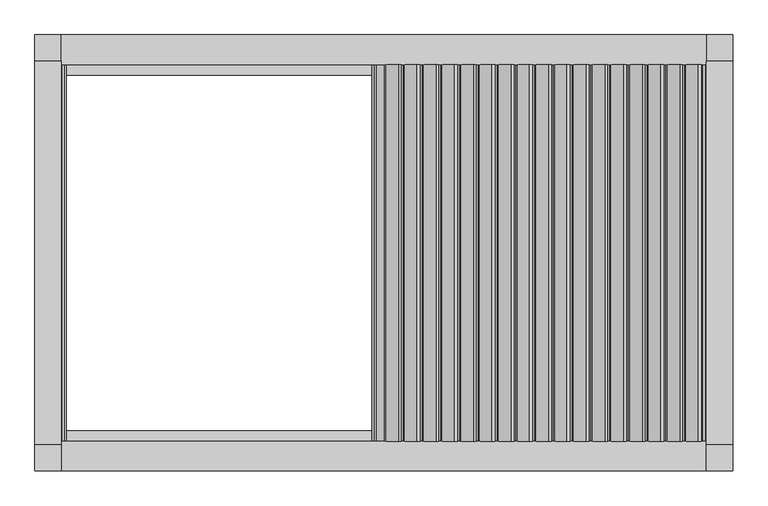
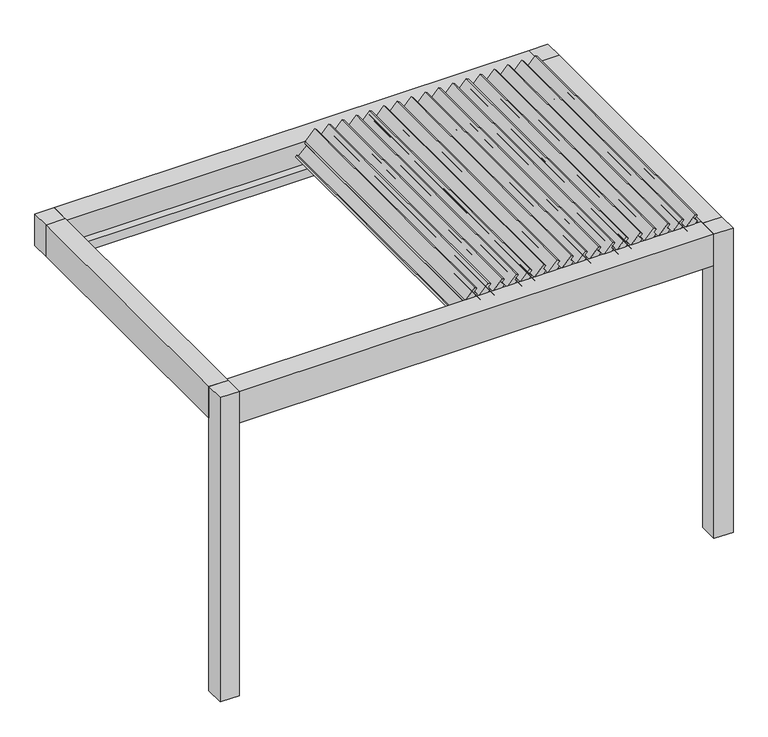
"""IFC4 building model written with IfcOpenShell, lengths in millimetres: proxy geometry, Renson_Camargue_Skye_Facade-Mounted_Patio covers : Renson_Camargue_Skye_Facade-Mounted_Patio covers."""

import ifcopenshell
import ifcopenshell.guid

model = None  # the IFC model being written
_history = None  # IfcOwnerHistory: only IFC2X3 demands one
_inside = {}  # id of a spatial element -> (the spatial element, [elements in it])
_under = {}  # id of a project, library or spatial element -> (it, [spatial elements below it])
_declared = {}  # id of a project -> (the project, [libraries it declares])
_typed = {}  # id of a type object -> (the type object, [elements of that type])
_made_of = {}  # id of a material, layer set ... -> (it, [elements and type objects made of it])


def new_model(schema):
    """Start an empty IFC model of exactly this schema.

    Asked for "IFC4X3", IfcOpenShell would pick the latest addendum, in which some entities
    have other attributes; the version numbers below select the first issue.
    IFC2X3 requires an IfcOwnerHistory on every rooted entity: one is made here for all.
    """
    global model, _history
    if schema == "IFC4X3":
        model = ifcopenshell.file(schema_version=(4, 3, 0, 0))
    else:
        model = ifcopenshell.file(schema=schema)
    _inside.clear()
    _under.clear()
    _declared.clear()
    _typed.clear()
    _made_of.clear()
    _history = None
    if model.schema == "IFC2X3":
        org = make("IfcOrganization", Name="unknown")
        user = make(
            "IfcPersonAndOrganization",
            ThePerson=make("IfcPerson", FamilyName="unknown"),
            TheOrganization=org,
        )
        app = make(
            "IfcApplication",
            ApplicationDeveloper=org,
            Version="unknown",
            ApplicationFullName="unknown",
            ApplicationIdentifier="unknown",
        )
        _history = make(
            "IfcOwnerHistory",
            OwningUser=user,
            OwningApplication=app,
            ChangeAction="ADDED",
            CreationDate=0,
        )
    return model


def make(cls, **values):
    """One entity of the class cls with the attributes given. An attribute that is None is left unset."""
    return model.create_entity(
        cls, **{name: value for name, value in values.items() if value is not None}
    )


def rooted(cls, **values):
    """An entity with a GlobalId (a new one), such as an element, a storey or a relation."""
    return make(cls, GlobalId=ifcopenshell.guid.new(), OwnerHistory=_history, **values)


def si_unit(unit_type, name, prefix=None):
    """IfcSIUnit, for example si_unit("LENGTHUNIT", "METRE", prefix="MILLI")."""
    return make("IfcSIUnit", UnitType=unit_type, Prefix=prefix, Name=name)


def assignment(units):
    """IfcUnitAssignment: the units of a project."""
    return None if units is None else make("IfcUnitAssignment", Units=units)


def point(xyz):
    """IfcCartesianPoint."""
    return None if xyz is None else make("IfcCartesianPoint", Coordinates=xyz)


def direction(xyz):
    """IfcDirection."""
    return None if xyz is None else make("IfcDirection", DirectionRatios=xyz)


def frame(location, z_axis=None, x_axis=None):
    """IfcAxis2Placement3D, a coordinate frame: its origin and axes. An axis left out is left unset."""
    return make(
        "IfcAxis2Placement3D",
        Location=point(location),
        Axis=direction(z_axis),
        RefDirection=direction(x_axis),
    )


def frame_2d(location, x_axis=None):
    """IfcAxis2Placement2D, a coordinate frame in the plane: its origin and x axis."""
    return make(
        "IfcAxis2Placement2D", Location=point(location), RefDirection=direction(x_axis)
    )


def origin():
    """The frame at (0, 0, 0) with its axes left unset."""
    return frame((0.0, 0.0, 0.0))


def origin_with_axes():
    """The frame at (0, 0, 0) with the z axis (0, 0, 1) and the x axis (1, 0, 0) written out."""
    return frame((0.0, 0.0, 0.0), z_axis=(0.0, 0.0, 1.0), x_axis=(1.0, 0.0, 0.0))


def place(relative_to, where):
    """IfcLocalPlacement: puts the frame where relative to a parent placement (None: the world)."""
    return make(
        "IfcLocalPlacement", PlacementRelTo=relative_to, RelativePlacement=where
    )


def context(
    kind, dimensions, precision=None, world=None, true_north=None, identifier=None
):
    """IfcGeometricRepresentationContext, for example the 3D "Model" context."""
    return make(
        "IfcGeometricRepresentationContext",
        ContextIdentifier=identifier,
        ContextType=kind,
        CoordinateSpaceDimension=dimensions,
        Precision=precision,
        WorldCoordinateSystem=world,
        TrueNorth=true_north,
    )


def project(units=None, contexts=None):
    """IfcProject with its units and contexts."""
    return rooted(
        "IfcProject",
        Name="project",
        RepresentationContexts=contexts,
        UnitsInContext=assignment(units),
    )


def spatial(cls, under=None, at=None, **own):
    """A site, building, storey or space (cls), placed at a placement, below another one or the project."""
    s = rooted(cls, ObjectPlacement=at, **own)
    if under is not None:
        _under.setdefault(under.id(), (under, []))[1].append(s)
    return s


def polyline(points):
    """IfcPolyline through the points."""
    return make("IfcPolyline", Points=[point(p) for p in points])


def circle_curve(where, radius):
    """IfcCircle in the frame where."""
    return make("IfcCircle", Position=where, Radius=radius)


def trimmed(basis, trim1, trim2, sense, master):
    """IfcTrimmedCurve: the piece of a basis curve between two trims."""
    return make(
        "IfcTrimmedCurve",
        BasisCurve=basis,
        Trim1=trim1,
        Trim2=trim2,
        SenseAgreement=sense,
        MasterRepresentation=master,
    )


def segment(curve, same_sense, transition):
    """IfcCompositeCurveSegment."""
    return make(
        "IfcCompositeCurveSegment",
        Transition=transition,
        SameSense=same_sense,
        ParentCurve=curve,
    )


def composite_curve(segments, self_intersect=None):
    """IfcCompositeCurve: segments joined end to end."""
    return make("IfcCompositeCurve", Segments=segments, SelfIntersect=self_intersect)


def outline(outer, holes=None, kind="AREA"):
    """IfcArbitraryClosedProfileDef: a profile drawn as a closed curve; with holes, ...WithVoids."""
    if holes is None:
        return make("IfcArbitraryClosedProfileDef", ProfileType=kind, OuterCurve=outer)
    return make(
        "IfcArbitraryProfileDefWithVoids",
        ProfileType=kind,
        OuterCurve=outer,
        InnerCurves=holes,
    )


def extrude(swept, where, along, depth):
    """IfcExtrudedAreaSolid: the profile swept, set in the frame where, extruded along a direction by depth."""
    return make(
        "IfcExtrudedAreaSolid",
        SweptArea=swept,
        Position=where,
        ExtrudedDirection=direction(along),
        Depth=depth,
    )


def shape(context_of_items, identifier, shape_type, items):
    """IfcShapeRepresentation: the items that make up one representation, for example the "Body"."""
    return make(
        "IfcShapeRepresentation",
        ContextOfItems=context_of_items,
        RepresentationIdentifier=identifier,
        RepresentationType=shape_type,
        Items=items,
    )


def source(mapping_origin, context_of_items, identifier, shape_type, items):
    """IfcRepresentationMap: a shape defined once, which mapped items show again and again."""
    return make(
        "IfcRepresentationMap",
        MappingOrigin=mapping_origin,
        MappedRepresentation=shape(context_of_items, identifier, shape_type, items),
    )


def transform(
    local_origin,
    x_axis=None,
    y_axis=None,
    z_axis=None,
    scale=None,
    scale2=None,
    scale3=None,
    uniform=True,
):
    """IfcCartesianTransformationOperator3D, or its non-uniform kind. x_axis, y_axis, z_axis: its Axis1, 2, 3."""
    if uniform:
        return make(
            "IfcCartesianTransformationOperator3D",
            Axis1=direction(x_axis),
            Axis2=direction(y_axis),
            LocalOrigin=point(local_origin),
            Scale=scale,
            Axis3=direction(z_axis),
        )
    return make(
        "IfcCartesianTransformationOperator3DnonUniform",
        Axis1=direction(x_axis),
        Axis2=direction(y_axis),
        LocalOrigin=point(local_origin),
        Scale=scale,
        Axis3=direction(z_axis),
        Scale2=scale2,
        Scale3=scale3,
    )


def mapped(mapping_source, mapping_target):
    """IfcMappedItem: shows the shape of a source again, moved by a transform."""
    return make(
        "IfcMappedItem", MappingSource=mapping_source, MappingTarget=mapping_target
    )


def made_of(thing, what):
    """Note that an element or type object is made of a material, layer set ...; save() writes the relation."""
    if what is not None:
        _made_of.setdefault(what.id(), (what, []))[1].append(thing)
    return thing


def element(
    cls,
    number,
    at=None,
    inside=None,
    cuts=None,
    type_object=None,
    material=None,
    context=None,
    identifier="Body",
    shape_type=None,
    held_by="IfcProductDefinitionShape",
    body=None,
    shapes=None,
    **own,
):
    """One element of the class cls, such as IfcWall. Its Tag is "e" and its number.

    at: its placement. inside: the storey or other place that contains it. cuts: it is an
    opening in that element (IfcRelVoidsElement). A single representation is given by context,
    identifier, shape_type and body (its items); several are given by shapes. held_by: the class
    of the entity that holds the representations. save() writes the other relations.
    """
    e = rooted(cls, Tag="e%d" % number, ObjectPlacement=at, **own)
    if body is not None:
        shapes = [shape(context, identifier, shape_type, body)]
    if shapes is not None:
        e.Representation = make(held_by, Representations=shapes)
    if inside is not None:
        _inside.setdefault(inside.id(), (inside, []))[1].append(e)
    if cuts is not None:
        rooted(
            "IfcRelVoidsElement", RelatingBuildingElement=cuts, RelatedOpeningElement=e
        )
    if type_object is not None:
        _typed.setdefault(type_object.id(), (type_object, []))[1].append(e)
    return made_of(e, material)


def aggregate(whole, parts):
    """IfcRelAggregates: a whole, such as a stair, and the parts it consists of."""
    return rooted("IfcRelAggregates", RelatingObject=whole, RelatedObjects=parts)


def save(model, path):
    """Write the relations noted so far, then the file.

    IfcRelAggregates (storeys below a building ...), IfcRelContainedInSpatialStructure (elements
    in a storey), IfcRelDefinesByType, IfcRelAssociatesMaterial and IfcRelDeclares: one each for
    every whole, place, type object, material and project.
    """
    for whole, parts in _under.values():
        aggregate(whole, parts)
    for where, things in _inside.values():
        rooted(
            "IfcRelContainedInSpatialStructure",
            RelatedElements=things,
            RelatingStructure=where,
        )
    for kind, things in _typed.values():
        rooted("IfcRelDefinesByType", RelatedObjects=things, RelatingType=kind)
    for what, things in _made_of.values():
        rooted("IfcRelAssociatesMaterial", RelatedObjects=things, RelatingMaterial=what)
    for by, libraries in _declared.values():
        rooted("IfcRelDeclares", RelatingContext=by, RelatedDefinitions=libraries)
    model.write(path)


def generic_models_02ebf654(model_context):
    return source(origin(), model_context, "Body", "SweptSolid", [
        extrude(outline(composite_curve([segment(polyline([(2532.0835122, 1710.9276745), (2553.3547618, 1693.0789769), (2574.7237457, 1712.4891952), (2586.077577, 1696.2742437), (2504.561844, 1622.2305651)]), True, "CONTINUOUS"), segment(trimmed(circle_curve(frame_2d((2494.4763419, 1633.333837)), 15.0), [point((2504.561844, 1622.2305651))], [point((2485.8726953, 1621.0465563))], False, "CARTESIAN"), True, "CONTINUOUS"), segment(polyline([(2485.8726953, 1621.0465563), (2469.8777579, 1632.2463321), (2407.8391957, 1570.2077699), (2417.7863257, 1556.0017959), (2406.4649975, 1545.7182254), (2384.9376513, 1563.7818136), (2532.0835122, 1710.9276745)]), True, "CONTINUOUS")], self_intersect=False)), frame((0.0, -1080.0, 0.0), z_axis=(0.0, 1.0, 0.0), x_axis=(0.0, 0.0, 1.0)), (0.0, 0.0, 1.0), 2160.0),
        extrude(outline(composite_curve([segment(polyline([(2532.0835122, 1603.4168697), (2553.3547618, 1585.5681721), (2574.7237457, 1604.9783904), (2586.077577, 1588.7634389), (2504.561844, 1514.7197603)]), True, "CONTINUOUS"), segment(trimmed(circle_curve(frame_2d((2494.4763419, 1525.8230322)), 15.0), [point((2504.561844, 1514.7197603))], [point((2485.8726953, 1513.5357516))], False, "CARTESIAN"), True, "CONTINUOUS"), segment(polyline([(2485.8726953, 1513.5357516), (2469.8777579, 1524.7355273), (2407.8391957, 1462.6969652), (2417.7863257, 1448.4909912), (2406.4649975, 1438.2074206), (2384.9376513, 1456.2710088), (2532.0835122, 1603.4168697)]), True, "CONTINUOUS")], self_intersect=False)), frame((0.0, -1080.0, 0.0), z_axis=(0.0, 1.0, 0.0), x_axis=(0.0, 0.0, 1.0)), (0.0, 0.0, 1.0), 2160.0),
        extrude(outline(composite_curve([segment(polyline([(2532.0835122, 1495.906065), (2553.3547618, 1478.0573673), (2574.7237457, 1497.4675857), (2586.077577, 1481.2526342), (2504.561844, 1407.2089555)]), True, "CONTINUOUS"), segment(trimmed(circle_curve(frame_2d((2494.4763419, 1418.3122274)), 15.0), [point((2504.561844, 1407.2089555))], [point((2485.8726953, 1406.0249468))], False, "CARTESIAN"), True, "CONTINUOUS"), segment(polyline([(2485.8726953, 1406.0249468), (2469.8777579, 1417.2247226), (2407.8391957, 1355.1861604), (2417.7863257, 1340.9801864), (2406.4649975, 1330.6966158), (2384.9376513, 1348.760204), (2532.0835122, 1495.906065)]), True, "CONTINUOUS")], self_intersect=False)), frame((0.0, -1080.0, 0.0), z_axis=(0.0, 1.0, 0.0), x_axis=(0.0, 0.0, 1.0)), (0.0, 0.0, 1.0), 2160.0),
        extrude(outline(composite_curve([segment(polyline([(2532.0835122, 1388.3952602), (2553.3547618, 1370.5465625), (2574.7237457, 1389.9567809), (2586.077577, 1373.7418294), (2504.561844, 1299.6981507)]), True, "CONTINUOUS"), segment(trimmed(circle_curve(frame_2d((2494.4763419, 1310.8014227)), 15.0), [point((2504.561844, 1299.6981507))], [point((2485.8726953, 1298.514142))], False, "CARTESIAN"), True, "CONTINUOUS"), segment(polyline([(2485.8726953, 1298.514142), (2469.8777579, 1309.7139178), (2407.8391957, 1247.6753556), (2417.7863257, 1233.4693816), (2406.4649975, 1223.185811), (2384.9376513, 1241.2493993), (2532.0835122, 1388.3952602)]), True, "CONTINUOUS")], self_intersect=False)), frame((0.0, -1080.0, 0.0), z_axis=(0.0, 1.0, 0.0), x_axis=(0.0, 0.0, 1.0)), (0.0, 0.0, 1.0), 2160.0),
        extrude(outline(composite_curve([segment(polyline([(2532.0835122, 1280.8844554), (2553.3547618, 1263.0357577), (2574.7237457, 1282.4459761), (2586.077577, 1266.2310246), (2504.561844, 1192.187346)]), True, "CONTINUOUS"), segment(trimmed(circle_curve(frame_2d((2494.4763419, 1203.2906179)), 15.0), [point((2504.561844, 1192.187346))], [point((2485.8726953, 1191.0033372))], False, "CARTESIAN"), True, "CONTINUOUS"), segment(polyline([(2485.8726953, 1191.0033372), (2469.8777579, 1202.203113), (2407.8391957, 1140.1645508), (2417.7863257, 1125.9585768), (2406.4649975, 1115.6750063), (2384.9376513, 1133.7385945), (2532.0835122, 1280.8844554)]), True, "CONTINUOUS")], self_intersect=False)), frame((0.0, -1080.0, 0.0), z_axis=(0.0, 1.0, 0.0), x_axis=(0.0, 0.0, 1.0)), (0.0, 0.0, 1.0), 2160.0),
        extrude(outline(composite_curve([segment(polyline([(2532.0835122, 1173.3736506), (2553.3547618, 1155.5249529), (2574.7237457, 1174.9351713), (2586.077577, 1158.7202198), (2504.561844, 1084.6765412)]), True, "CONTINUOUS"), segment(trimmed(circle_curve(frame_2d((2494.4763419, 1095.7798131)), 15.0), [point((2504.561844, 1084.6765412))], [point((2485.8726953, 1083.4925324))], False, "CARTESIAN"), True, "CONTINUOUS"), segment(polyline([(2485.8726953, 1083.4925324), (2469.8777579, 1094.6923082), (2407.8391957, 1032.653746), (2417.7863257, 1018.447772), (2406.4649975, 1008.1642015), (2384.9376513, 1026.2277897), (2532.0835122, 1173.3736506)]), True, "CONTINUOUS")], self_intersect=False)), frame((0.0, -1080.0, 0.0), z_axis=(0.0, 1.0, 0.0), x_axis=(0.0, 0.0, 1.0)), (0.0, 0.0, 1.0), 2160.0),
        extrude(outline(composite_curve([segment(polyline([(2532.0835122, 1065.8628458), (2553.3547618, 1048.0141482), (2574.7237457, 1067.4243665), (2586.077577, 1051.209415), (2504.561844, 977.1657364)]), True, "CONTINUOUS"), segment(trimmed(circle_curve(frame_2d((2494.4763419, 988.2690083)), 15.0), [point((2504.561844, 977.1657364))], [point((2485.8726953, 975.9817276))], False, "CARTESIAN"), True, "CONTINUOUS"), segment(polyline([(2485.8726953, 975.9817276), (2469.8777579, 987.1815034), (2407.8391957, 925.1429413), (2417.7863257, 910.9369673), (2406.4649975, 900.6533967), (2384.9376513, 918.7169849), (2532.0835122, 1065.8628458)]), True, "CONTINUOUS")], self_intersect=False)), frame((0.0, -1080.0, 0.0), z_axis=(0.0, 1.0, 0.0), x_axis=(0.0, 0.0, 1.0)), (0.0, 0.0, 1.0), 2160.0),
        extrude(outline(composite_curve([segment(polyline([(2532.0835122, 958.3520411), (2553.3547618, 940.5033434), (2574.7237457, 959.9135617), (2586.077577, 943.6986103), (2504.561844, 869.6549316)]), True, "CONTINUOUS"), segment(trimmed(circle_curve(frame_2d((2494.4763419, 880.7582035)), 15.0), [point((2504.561844, 869.6549316))], [point((2485.8726953, 868.4709229))], False, "CARTESIAN"), True, "CONTINUOUS"), segment(polyline([(2485.8726953, 868.4709229), (2469.8777579, 879.6706987), (2407.8391957, 817.6321365), (2417.7863257, 803.4261625), (2406.4649975, 793.1425919), (2384.9376513, 811.2061801), (2532.0835122, 958.3520411)]), True, "CONTINUOUS")], self_intersect=False)), frame((0.0, -1080.0, 0.0), z_axis=(0.0, 1.0, 0.0), x_axis=(0.0, 0.0, 1.0)), (0.0, 0.0, 1.0), 2160.0),
        extrude(outline(composite_curve([segment(polyline([(2532.0835122, 850.8412363), (2553.3547618, 832.9925386), (2574.7237457, 852.402757), (2586.077577, 836.1878055), (2504.561844, 762.1441268)]), True, "CONTINUOUS"), segment(trimmed(circle_curve(frame_2d((2494.4763419, 773.2473987)), 15.0), [point((2504.561844, 762.1441268))], [point((2485.8726953, 760.9601181))], False, "CARTESIAN"), True, "CONTINUOUS"), segment(polyline([(2485.8726953, 760.9601181), (2469.8777579, 772.1598939), (2407.8391957, 710.1213317), (2417.7863257, 695.9153577), (2406.4649975, 685.6317871), (2384.9376513, 703.6953753), (2532.0835122, 850.8412363)]), True, "CONTINUOUS")], self_intersect=False)), frame((0.0, -1080.0, 0.0), z_axis=(0.0, 1.0, 0.0), x_axis=(0.0, 0.0, 1.0)), (0.0, 0.0, 1.0), 2160.0),
        extrude(outline(composite_curve([segment(polyline([(2532.0835122, 743.3304315), (2553.3547618, 725.4817338), (2574.7237457, 744.8919522), (2586.077577, 728.6770007), (2504.561844, 654.6333221)]), True, "CONTINUOUS"), segment(trimmed(circle_curve(frame_2d((2494.4763419, 665.736594)), 15.0), [point((2504.561844, 654.6333221))], [point((2485.8726953, 653.4493133))], False, "CARTESIAN"), True, "CONTINUOUS"), segment(polyline([(2485.8726953, 653.4493133), (2469.8777579, 664.6490891), (2407.8391957, 602.6105269), (2417.7863257, 588.4045529), (2406.4649975, 578.1209823), (2384.9376513, 596.1845706), (2532.0835122, 743.3304315)]), True, "CONTINUOUS")], self_intersect=False)), frame((0.0, -1080.0, 0.0), z_axis=(0.0, 1.0, 0.0), x_axis=(0.0, 0.0, 1.0)), (0.0, 0.0, 1.0), 2160.0),
        extrude(outline(composite_curve([segment(polyline([(2532.0835122, 635.8196267), (2553.3547618, 617.970929), (2574.7237457, 637.3811474), (2586.077577, 621.1661959), (2504.561844, 547.1225173)]), True, "CONTINUOUS"), segment(trimmed(circle_curve(frame_2d((2494.4763419, 558.2257892)), 15.0), [point((2504.561844, 547.1225173))], [point((2485.8726953, 545.9385085))], False, "CARTESIAN"), True, "CONTINUOUS"), segment(polyline([(2485.8726953, 545.9385085), (2469.8777579, 557.1382843), (2407.8391957, 495.0997221), (2417.7863257, 480.8937481), (2406.4649975, 470.6101776), (2384.9376513, 488.6737658), (2532.0835122, 635.8196267)]), True, "CONTINUOUS")], self_intersect=False)), frame((0.0, -1080.0, 0.0), z_axis=(0.0, 1.0, 0.0), x_axis=(0.0, 0.0, 1.0)), (0.0, 0.0, 1.0), 2160.0),
        extrude(outline(composite_curve([segment(polyline([(2532.0835122, 528.3088219), (2553.3547618, 510.4601243), (2574.7237457, 529.8703426), (2586.077577, 513.6553911), (2504.561844, 439.6117125)]), True, "CONTINUOUS"), segment(trimmed(circle_curve(frame_2d((2494.4763419, 450.7149844)), 15.0), [point((2504.561844, 439.6117125))], [point((2485.8726953, 438.4277037))], False, "CARTESIAN"), True, "CONTINUOUS"), segment(polyline([(2485.8726953, 438.4277037), (2469.8777579, 449.6274795), (2407.8391957, 387.5889173), (2417.7863257, 373.3829433), (2406.4649975, 363.0993728), (2384.9376513, 381.162961), (2532.0835122, 528.3088219)]), True, "CONTINUOUS")], self_intersect=False)), frame((0.0, -1080.0, 0.0), z_axis=(0.0, 1.0, 0.0), x_axis=(0.0, 0.0, 1.0)), (0.0, 0.0, 1.0), 2160.0),
        extrude(outline(composite_curve([segment(polyline([(2532.0835122, 420.7980171), (2553.3547618, 402.9493195), (2574.7237457, 422.3595378), (2586.077577, 406.1445863), (2504.561844, 332.1009077)]), True, "CONTINUOUS"), segment(trimmed(circle_curve(frame_2d((2494.4763419, 343.2041796)), 15.0), [point((2504.561844, 332.1009077))], [point((2485.8726953, 330.916899))], False, "CARTESIAN"), True, "CONTINUOUS"), segment(polyline([(2485.8726953, 330.916899), (2469.8777579, 342.1166747), (2407.8391957, 280.0781126), (2417.7863257, 265.8721386), (2406.4649975, 255.588568), (2384.9376513, 273.6521562), (2532.0835122, 420.7980171)]), True, "CONTINUOUS")], self_intersect=False)), frame((0.0, -1080.0, 0.0), z_axis=(0.0, 1.0, 0.0), x_axis=(0.0, 0.0, 1.0)), (0.0, 0.0, 1.0), 2160.0),
        extrude(outline(composite_curve([segment(polyline([(2532.0835122, 313.2872124), (2553.3547618, 295.4385147), (2574.7237457, 314.8487331), (2586.077577, 298.6337816), (2504.561844, 224.5901029)]), True, "CONTINUOUS"), segment(trimmed(circle_curve(frame_2d((2494.4763419, 235.6933748)), 15.0), [point((2504.561844, 224.5901029))], [point((2485.8726953, 223.4060942))], False, "CARTESIAN"), True, "CONTINUOUS"), segment(polyline([(2485.8726953, 223.4060942), (2469.8777579, 234.60587), (2407.8391957, 172.5673078), (2417.7863257, 158.3613338), (2406.4649975, 148.0777632), (2384.9376513, 166.1413514), (2532.0835122, 313.2872124)]), True, "CONTINUOUS")], self_intersect=False)), frame((0.0, -1080.0, 0.0), z_axis=(0.0, 1.0, 0.0), x_axis=(0.0, 0.0, 1.0)), (0.0, 0.0, 1.0), 2160.0),
        extrude(outline(composite_curve([segment(polyline([(2532.0835122, 205.7764076), (2553.3547618, 187.9277099), (2574.7237457, 207.3379283), (2586.077577, 191.1229768), (2504.561844, 117.0792981)]), True, "CONTINUOUS"), segment(trimmed(circle_curve(frame_2d((2494.4763419, 128.1825701)), 15.0), [point((2504.561844, 117.0792981))], [point((2485.8726953, 115.8952894))], False, "CARTESIAN"), True, "CONTINUOUS"), segment(polyline([(2485.8726953, 115.8952894), (2469.8777579, 127.0950652), (2407.8391957, 65.056503), (2417.7863257, 50.850529), (2406.4649975, 40.5669584), (2384.9376513, 58.6305467), (2532.0835122, 205.7764076)]), True, "CONTINUOUS")], self_intersect=False)), frame((0.0, -1080.0, 0.0), z_axis=(0.0, 1.0, 0.0), x_axis=(0.0, 0.0, 1.0)), (0.0, 0.0, 1.0), 2160.0),
        extrude(outline(composite_curve([segment(polyline([(2532.0835122, 1818.4384793), (2553.3547618, 1800.5897816), (2574.7237457, 1820.0), (2586.077577, 1803.7850485), (2504.561844, 1729.7413699)]), True, "CONTINUOUS"), segment(trimmed(circle_curve(frame_2d((2494.4763419, 1740.8446418)), 15.0), [point((2504.561844, 1729.7413699))], [point((2485.8726953, 1728.5573611))], False, "CARTESIAN"), True, "CONTINUOUS"), segment(polyline([(2485.8726953, 1728.5573611), (2469.8777579, 1739.7571369), (2407.8391957, 1677.7185747), (2417.7863257, 1663.5126007), (2406.4649975, 1653.2290302), (2384.9376513, 1671.2926184), (2532.0835122, 1818.4384793)]), True, "CONTINUOUS")], self_intersect=False)), frame((0.0, -1080.0, 0.0), z_axis=(0.0, 1.0, 0.0), x_axis=(0.0, 0.0, 1.0)), (0.0, 0.0, 1.0), 2160.0),
        extrude(outline(composite_curve([segment(polyline([(2532.0835122, 98.2656028), (2553.3547618, 80.4169051), (2574.7237457, 99.8271235), (2586.077577, 83.612172), (2504.561844, 9.5684934)]), True, "CONTINUOUS"), segment(trimmed(circle_curve(frame_2d((2494.4763419, 20.6717653)), 15.0), [point((2504.561844, 9.5684934))], [point((2485.8726953, 8.3844846))], False, "CARTESIAN"), True, "CONTINUOUS"), segment(polyline([(2485.8726953, 8.3844846), (2469.8777579, 19.5842604), (2407.8391957, -42.4543018), (2417.7863257, -56.6602758), (2406.4649975, -66.9438463), (2384.9376513, -48.8802581), (2532.0835122, 98.2656028)]), True, "CONTINUOUS")], self_intersect=False)), frame((0.0, -1080.0, 0.0), z_axis=(0.0, 1.0, 0.0), x_axis=(0.0, 0.0, 1.0)), (0.0, 0.0, 1.0), 2160.0),
        extrude(outline(polyline([(-1850.0, -1250.0), (-2000.0, -1250.0), (-2000.0, -1100.0), (-1850.0, -1100.0), (-1850.0, -1250.0)])), origin_with_axes(), (0.0, 0.0, 1.0), 2510.0),
        extrude(outline(polyline([(2000.0, -1250.0), (1850.0, -1250.0), (1850.0, -1100.0), (2000.0, -1100.0), (2000.0, -1250.0)])), origin_with_axes(), (0.0, 0.0, 1.0), 2510.0),
        extrude(outline(polyline([(2441.6559373, -1850.0), (2441.6559373, -1824.0), (2455.6555802, -1820.2487113), (2455.6555802, -1829.5940945), (2471.400763, -1845.0), (2479.2449277, -1845.0), (2479.6823598, -1850.0), (2441.6559373, -1850.0)])), frame((0.0, -1100.0, 0.0), z_axis=(0.0, 1.0, 0.0), x_axis=(0.0, 0.0, 1.0)), (0.0, 0.0, 1.0), 2200.0),
        extrude(outline(polyline([(-1850.0, 1100.0), (-1850.0, -1100.0), (-2000.0, -1100.0), (-2000.0, 1100.0), (-1850.0, 1100.0)])), frame((0.0, 0.0, 2250.0), z_axis=(0.0, 0.0, 1.0), x_axis=(1.0, 0.0, 0.0)), (0.0, 0.0, 1.0), 260.0),
        extrude(outline(polyline([(2510.0, 2000.0), (2510.0, 1850.0), (2479.6904658, 1850.0), (2479.2449277, 1845.0), (2471.400763, 1845.0), (2455.6555802, 1829.2544156), (2455.6555802, 1819.9090324), (2441.6559373, 1823.6603211), (2441.6559373, 1850.0), (2250.0, 1850.0), (2250.0, 2000.0), (2510.0, 2000.0)])), frame((0.0, -1100.0, 0.0), z_axis=(0.0, 1.0, 0.0), x_axis=(0.0, 0.0, 1.0)), (0.0, 0.0, 1.0), 2200.0),
        extrude(outline(polyline([(1080.0, 2510.0), (1250.0, 2510.0), (1250.0, 2250.0), (1020.0, 2250.0), (1020.0, 2322.0), (1080.0, 2322.0), (1080.0, 2510.0)])), frame((-1850.0, 0.0, 0.0), z_axis=(1.0, 0.0, 0.0), x_axis=(0.0, 1.0, 0.0)), (0.0, 0.0, 1.0), 3700.0),
        extrude(outline(polyline([(-1250.0, 2250.0), (-1250.0, 2510.0), (-1080.0, 2510.0), (-1080.0, 2322.0), (-1020.0, 2322.0), (-1020.0, 2250.0), (-1250.0, 2250.0)])), frame((-1850.0, 0.0, 0.0), z_axis=(1.0, 0.0, 0.0), x_axis=(0.0, 1.0, 0.0)), (0.0, 0.0, 1.0), 3700.0),
        extrude(outline(polyline([(2000.0, 1100.0), (1850.0, 1100.0), (1850.0, 1250.0), (2000.0, 1250.0), (2000.0, 1100.0)])), frame((0.0, 0.0, 2250.0), z_axis=(0.0, 0.0, 1.0), x_axis=(1.0, 0.0, 0.0)), (0.0, 0.0, 1.0), 260.0),
        extrude(outline(polyline([(-1850.0, 1100.0), (-2000.0, 1100.0), (-2000.0, 1250.0), (-1850.0, 1250.0), (-1850.0, 1100.0)])), frame((0.0, 0.0, 2250.0), z_axis=(0.0, 0.0, 1.0), x_axis=(1.0, 0.0, 0.0)), (0.0, 0.0, 1.0), 260.0),
    ])


if __name__ == "__main__":
    model = new_model("IFC4")
    model_context = context("Model", 3, world=origin())
    ifc_project = project(units=[si_unit("LENGTHUNIT", "METRE", prefix="MILLI")], contexts=[model_context])
    site = spatial("IfcSite", under=ifc_project)
    building = spatial("IfcBuilding", under=site)
    placement = place(None, origin())
    generic_models_shape = generic_models_02ebf654(model_context)
    element("IfcBuildingElementProxy", 1, Name="Renson_Camargue_Skye_Facade-Mounted_Patio covers : Renson_Camargue_Skye_Facade-Mounted_Patio covers", ObjectType="Renson_Camargue_Skye_Facade-Mounted_Patio covers : Renson_Camargue_Skye_Facade-Mounted_Patio covers", at=placement, inside=building, context=model_context, shape_type="MappedRepresentation", body=[
        mapped(generic_models_shape, transform((0.0, 0.0, 0.0), x_axis=(1.0, 0.0, 0.0), y_axis=(0.0, 1.0, 0.0), z_axis=(0.0, 0.0, 1.0))),
    ])
    save(model, "model.ifc")
